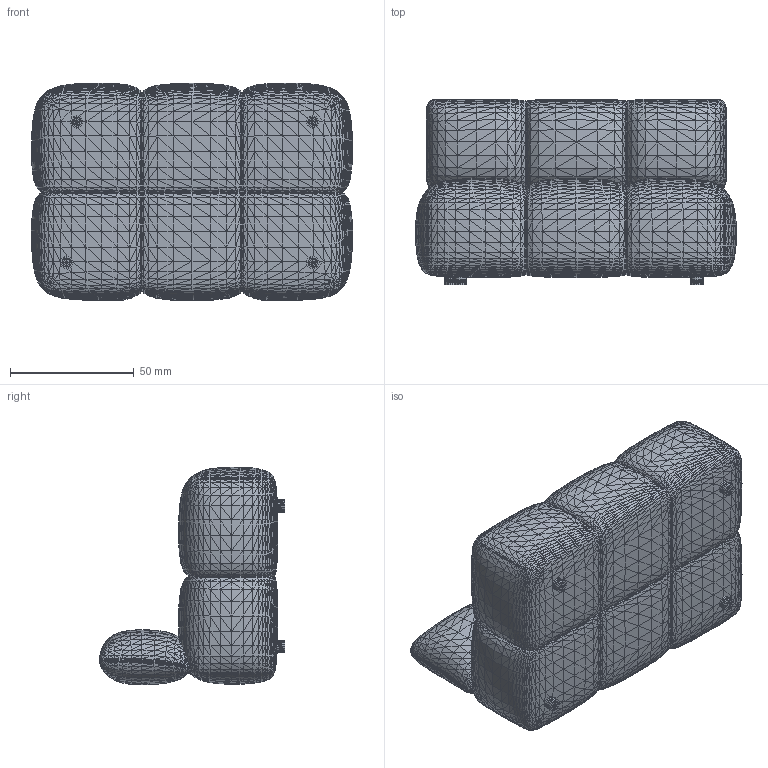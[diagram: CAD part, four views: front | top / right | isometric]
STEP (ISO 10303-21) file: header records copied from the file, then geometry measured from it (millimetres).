
FILE_DESCRIPTION((''),'2;1');
FILE_NAME('Center_section_130', '2025-04-29T13:47:49', (''), (''), 'ImageToStl.com STEP Converter','', '');
FILE_SCHEMA(('AUTOMOTIVE_DESIGN_CC2'));
Length unit declared in the file: metre
Products named in the file (3): product0; product1; product2
Bounding box: 129.69 x 75.02 x 88.03 mm (x, y, z)
Topology: 0 solids, 13600 shells, 13600 faces, 40768 edges, 7693 vertices
Faces by surface type: plane 13600
Entity records: 314632 total; most frequent: DIRECTION 68002, ORIENTED_EDGE 40800, EDGE_CURVE 40800, LINE 40800, VECTOR 40800, AXIS2_PLACEMENT_3D 13601, FACE_SURFACE 13600, PLANE 13600
